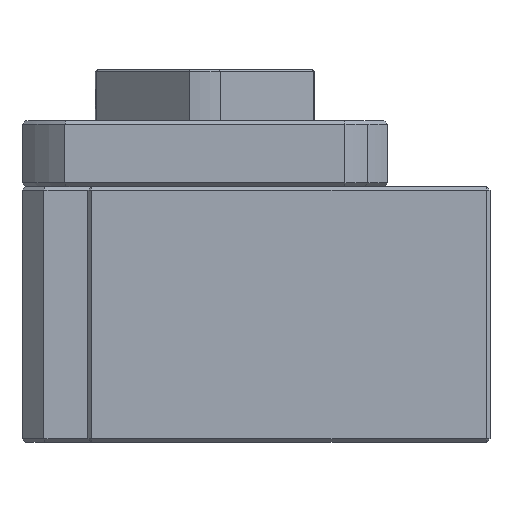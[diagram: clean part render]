
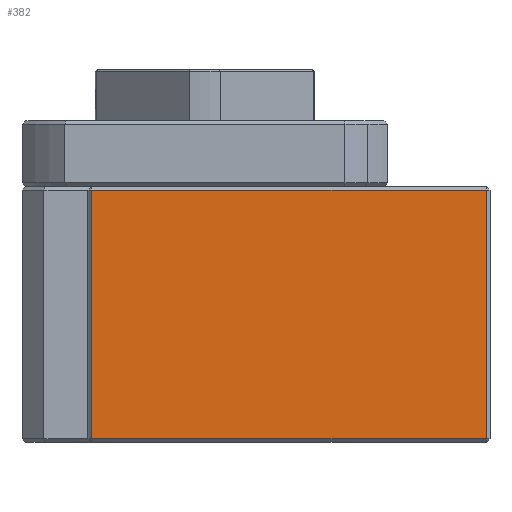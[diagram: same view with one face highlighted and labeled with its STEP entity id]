
A CAD part, left-side view. The second image highlights one B-rep face of the part: STEP entity #382.
In plain terms, the highlighted planar face has unit normal (-1, 0, 0).
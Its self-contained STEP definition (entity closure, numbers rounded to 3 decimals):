
#382 = ADVANCED_FACE ( 'NONE', ( #3973 ), #13520, .F. ) ;
#3543 = CARTESIAN_POINT ( 'NONE',  ( -43., -38.5, -17. ) ) ;
#3545 = CARTESIAN_POINT ( 'NONE',  ( -43., 15.5, -17. ) ) ;
#3629 = CARTESIAN_POINT ( 'NONE',  ( -43., -38.5, 17. ) ) ;
#3630 = CARTESIAN_POINT ( 'NONE',  ( -43., 15.5, 17. ) ) ;
#3973 = FACE_OUTER_BOUND ( 'NONE', #8528, .T. ) ;
#3976 = AXIS2_PLACEMENT_3D ( 'NONE', #13521, #13522, #13523 ) ;
#7535 = LINE ( 'NONE', #7536, #11358 ) ;
#7536 = CARTESIAN_POINT ( 'NONE',  ( -43., 16., -17. ) ) ;
#7537 = DIRECTION ( 'NONE',  ( 0., -1., 0. ) ) ;
#7538 = LINE ( 'NONE', #7539, #11359 ) ;
#7539 = CARTESIAN_POINT ( 'NONE',  ( -43., -38.5, 17.5 ) ) ;
#7540 = DIRECTION ( 'NONE',  ( 0., 0., 1. ) ) ;
#7559 = LINE ( 'NONE', #7560, #11367 ) ;
#7560 = CARTESIAN_POINT ( 'NONE',  ( -43., 15.5, 17.5 ) ) ;
#7561 = DIRECTION ( 'NONE',  ( 0., 0., -1. ) ) ;
#7691 = LINE ( 'NONE', #7692, #11387 ) ;
#7692 = CARTESIAN_POINT ( 'NONE',  ( -43., 16., 17. ) ) ;
#7693 = DIRECTION ( 'NONE',  ( 0., 1., 0. ) ) ;
#8528 = EDGE_LOOP ( 'NONE', ( #11021, #11022, #11023, #11020 ) ) ;
#9008 = VERTEX_POINT ( 'NONE', #3543 ) ;
#9010 = VERTEX_POINT ( 'NONE', #3545 ) ;
#9266 = VERTEX_POINT ( 'NONE', #3629 ) ;
#9267 = VERTEX_POINT ( 'NONE', #3630 ) ;
#9536 = EDGE_CURVE ( 'NONE', #9010, #9008, #7535, .T. ) ;
#9537 = EDGE_CURVE ( 'NONE', #9008, #9266, #7538, .T. ) ;
#9544 = EDGE_CURVE ( 'NONE', #9267, #9010, #7559, .T. ) ;
#9568 = EDGE_CURVE ( 'NONE', #9266, #9267, #7691, .T. ) ;
#11020 = ORIENTED_EDGE ( 'NONE', *, *, #9568, .T. ) ;
#11021 = ORIENTED_EDGE ( 'NONE', *, *, #9544, .T. ) ;
#11022 = ORIENTED_EDGE ( 'NONE', *, *, #9536, .T. ) ;
#11023 = ORIENTED_EDGE ( 'NONE', *, *, #9537, .T. ) ;
#11358 = VECTOR ( 'NONE', #7537, 1000. ) ;
#11359 = VECTOR ( 'NONE', #7540, 1000. ) ;
#11367 = VECTOR ( 'NONE', #7561, 1000. ) ;
#11387 = VECTOR ( 'NONE', #7693, 1000. ) ;
#13520 = PLANE ( 'NONE',  #3976 ) ;
#13521 = CARTESIAN_POINT ( 'NONE',  ( -43., 16., 17.5 ) ) ;
#13522 = DIRECTION ( 'NONE',  ( 1., 0., 0. ) ) ;
#13523 = DIRECTION ( 'NONE',  ( 0., 1., 0. ) ) ;
